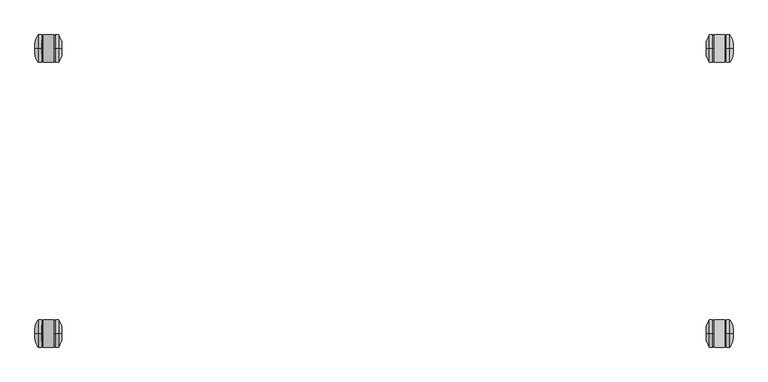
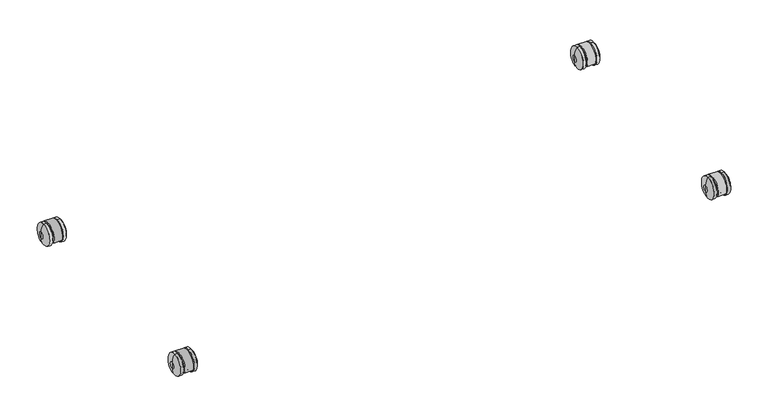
"""IFC4 building model written with IfcOpenShell, lengths in millimetres: furniture geometry, SmithSystem_AM_Table_Education_Elemental_NestAndFold_30D : 30D x 72W."""

from ifc_helpers import new_model, si_unit, point, frame, frame_2d, origin, place, context, project, spatial, polyline, circle_curve, ellipse_curve, trimmed, segment, composite_curve, outline, extrude, source, transform, mapped, element, save
from ifc_brep_helpers import plane_surface, cylinder_surface, revolved_surface, advanced_brep


def furniture_88b691dc(model_context):
    return source(origin(), model_context, "Body", "SolidModel", [
        extrude(outline(composite_curve([segment(polyline([(-686.7716582, 19.392668), (-749.5174044, 19.392668)]), True, "CONTINUOUS"), segment(trimmed(circle_curve(frame_2d((-718.1445313, 34.2990606)), 34.7341), [point((-749.5174044, 19.392668))], [point((-686.7716582, 19.392668))], False, "CARTESIAN"), True, "CONTINUOUS")], self_intersect=False)), frame((54.6490652, 0.0, 0.0), z_axis=(1.0, 0.0, 0.0), x_axis=(0.0, 1.0, 0.0)), (0.0, 0.0, 1.0), 26.0360428),
        extrude(outline(composite_curve([segment(polyline([(32.7611544, 19.392668), (-29.9845918, 19.392668)]), True, "CONTINUOUS"), segment(trimmed(circle_curve(frame_2d((1.3882813, 34.2990606)), 34.7341), [point((-29.9845918, 19.392668))], [point((32.7611544, 19.392668))], False, "CARTESIAN"), True, "CONTINUOUS")], self_intersect=False)), frame((54.6490652, 0.0, 0.0), z_axis=(1.0, 0.0, 0.0), x_axis=(0.0, 1.0, 0.0)), (0.0, 0.0, 1.0), 26.0360428),
        extrude(outline(composite_curve([segment(polyline([(-686.7716582, 19.392668), (-749.5174044, 19.392668)]), True, "CONTINUOUS"), segment(trimmed(circle_curve(frame_2d((-718.1445313, 34.2990606)), 34.7341), [point((-749.5174044, 19.392668))], [point((-686.7716582, 19.392668))], False, "CARTESIAN"), True, "CONTINUOUS")], self_intersect=False)), frame((1748.114892, 0.0, 0.0), z_axis=(1.0, 0.0, 0.0), x_axis=(0.0, 1.0, 0.0)), (0.0, 0.0, 1.0), 26.0360428),
        extrude(outline(composite_curve([segment(polyline([(32.7611544, 19.392668), (-29.9845918, 19.392668)]), True, "CONTINUOUS"), segment(trimmed(circle_curve(frame_2d((1.3882813, 34.2990606)), 34.7341), [point((-29.9845918, 19.392668))], [point((32.7611544, 19.392668))], False, "CARTESIAN"), True, "CONTINUOUS")], self_intersect=False)), frame((1748.114892, 0.0, 0.0), z_axis=(1.0, 0.0, 0.0), x_axis=(0.0, 1.0, 0.0)), (0.0, 0.0, 1.0), 26.0360428),
        advanced_brep(
        [(1746.5769566, 1.3882813, 34.3697295), (1746.5769566, 1.3882813, 66.3180847), (1746.5769566, 1.3882813, 2.4213744), (1744.4062544, 1.3882813, 69.0331606), (1744.4062544, 1.3882813, -0.2937015), (1735.4015712, 1.3882813, 69.0331606), (1735.4015712, 1.3882813, -0.2937015), (1727.4841685, 1.3882813, 45.9515492), (1727.4841685, 1.3882813, 22.7879099), (1727.4841685, 1.3882813, 34.3697295)],
        [
            (0, 1),
            (1, 2, circle_curve(frame((1746.5769566, 1.3882813, 34.3697295), z_axis=(1.0, 0.0, 0.0), x_axis=(0.0, 0.0, 1.0)), 31.9483552)),
            (2, 0),
            (2, 1, circle_curve(frame((1746.5769566, 1.3882813, 34.3697295), z_axis=(1.0, 0.0, 0.0), x_axis=(0.0, 0.0, 1.0)), 31.9483552)),
            (1, 3),
            (3, 4, circle_curve(frame((1744.4062544, 1.3882813, 34.3697295), z_axis=(1.0, 0.0, 0.0), x_axis=(0.0, 0.0, 1.0)), 34.6634311)),
            (4, 2),
            (4, 3, circle_curve(frame((1744.4062544, 1.3882813, 34.3697295), z_axis=(1.0, 0.0, 0.0), x_axis=(0.0, 0.0, 1.0)), 34.6634311)),
            (3, 5),
            (5, 6, circle_curve(frame((1735.4015712, 1.3882813, 34.3697295), z_axis=(1.0, 0.0, 0.0), x_axis=(0.0, 0.0, 1.0)), 34.6634311)),
            (6, 4),
            (6, 5, circle_curve(frame((1735.4015712, 1.3882813, 34.3697295), z_axis=(1.0, 0.0, 0.0), x_axis=(0.0, 0.0, 1.0)), 34.6634311)),
            (5, 7, circle_curve(frame((1765.0877916, 1.3882813, 45.9515492), z_axis=(0.0, -1.0, 0.0), x_axis=(1.0, 0.0, 0.0)), 37.6036231)),
            (7, 8, circle_curve(frame((1727.4841685, 1.3882813, 34.3697295), z_axis=(1.0, 0.0, 0.0), x_axis=(0.0, 0.0, 1.0)), 11.5818197)),
            (8, 6, circle_curve(frame((1765.0877916, 1.3882813, 22.7879099), z_axis=(0.0, -1.0, 0.0), x_axis=(1.0, 0.0, 0.0)), 37.6036231)),
            (8, 7, circle_curve(frame((1727.4841685, 1.3882813, 34.3697295), z_axis=(1.0, 0.0, 0.0), x_axis=(0.0, 0.0, 1.0)), 11.5818197)),
            (7, 9),
            (9, 8),
        ],
        [
            plane_surface(frame((1746.5769566, 1.3882813, 34.3697295), z_axis=(1.0, 0.0, 0.0), x_axis=(0.0, 0.0, 1.0))),
            revolved_surface(polyline([(1744.4062544, 1.3882813, 69.0331606), (1746.5769566, 1.3882813, 66.3180847)]), (1727.4841685, 1.3882813, 34.3697295), (1.0, 0.0, 0.0)),
            cylinder_surface(frame((1727.4841685, 1.3882813, 34.3697295), z_axis=(1.0, 0.0, 0.0), x_axis=(0.0, 0.0, 1.0)), 34.6634311),
            revolved_surface(trimmed(ellipse_curve(frame((1765.0877916, 1.3882813, 45.9515492), z_axis=(0.0, 1.0, 0.0), x_axis=(1.0, 0.0, 0.0)), 37.6036231, 37.6036231), [point((1727.4841685, 1.3882813, 45.9515492))], [point((1735.4015712, 1.3882813, 69.0331606))], True, "CARTESIAN"), (1727.4841685, 1.3882813, 34.3697295), (1.0, 0.0, 0.0)),
            plane_surface(frame((1727.4841685, 1.3882813, 34.3697295), z_axis=(-1.0, 0.0, 0.0), x_axis=(0.0, 0.0, 1.0))),
        ],
        [
            (0, [[1, 2, 3]]),
            (0, [[-3, 4, -1]]),
            (1, [[-2, 5, 6, 7]]),
            (1, [[-4, -7, 8, -5]]),
            (2, [[-6, 9, 10, 11]]),
            (2, [[-8, -11, 12, -9]]),
            (3, [[-10, 13, 14, 15]]),
            (3, [[-12, -15, 16, -13]]),
            (4, [[-14, 17, 18]]),
            (4, [[-16, -18, -17]]),
        ],
    ),
        advanced_brep(
        [(1795.2247373, 1.3882813, 34.3697295), (1795.2247373, 1.3882813, 45.9515492), (1795.2247373, 1.3882813, 22.7879099), (1787.3073346, 1.3882813, 69.0331606), (1787.3073346, 1.3882813, -0.2937015), (1778.3026514, 1.3882813, 69.0331606), (1778.3026514, 1.3882813, -0.2937015), (1776.1319492, 1.3882813, 66.3180847), (1776.1319492, 1.3882813, 2.4213744), (1776.1319492, 1.3882813, 34.3697295)],
        [
            (0, 1),
            (1, 2, circle_curve(frame((1795.2247373, 1.3882813, 34.3697295), z_axis=(1.0, 0.0, 0.0), x_axis=(0.0, 0.0, 1.0)), 11.5818197)),
            (2, 0),
            (2, 1, circle_curve(frame((1795.2247373, 1.3882813, 34.3697295), z_axis=(1.0, 0.0, 0.0), x_axis=(0.0, 0.0, 1.0)), 11.5818197)),
            (1, 3, circle_curve(frame((1757.6211142, 1.3882813, 45.9515492), z_axis=(0.0, -1.0, 0.0), x_axis=(1.0, 0.0, 0.0)), 37.6036231)),
            (3, 4, circle_curve(frame((1787.3073346, 1.3882813, 34.3697295), z_axis=(1.0, 0.0, 0.0), x_axis=(0.0, 0.0, 1.0)), 34.6634311)),
            (4, 2, circle_curve(frame((1757.6211142, 1.3882813, 22.7879099), z_axis=(0.0, -1.0, 0.0), x_axis=(1.0, 0.0, 0.0)), 37.6036231)),
            (4, 3, circle_curve(frame((1787.3073346, 1.3882813, 34.3697295), z_axis=(1.0, 0.0, 0.0), x_axis=(0.0, 0.0, 1.0)), 34.6634311)),
            (3, 5),
            (5, 6, circle_curve(frame((1778.3026514, 1.3882813, 34.3697295), z_axis=(1.0, 0.0, 0.0), x_axis=(0.0, 0.0, 1.0)), 34.6634311)),
            (6, 4),
            (6, 5, circle_curve(frame((1778.3026514, 1.3882813, 34.3697295), z_axis=(1.0, 0.0, 0.0), x_axis=(0.0, 0.0, 1.0)), 34.6634311)),
            (5, 7),
            (7, 8, circle_curve(frame((1776.1319492, 1.3882813, 34.3697295), z_axis=(1.0, 0.0, 0.0), x_axis=(0.0, 0.0, 1.0)), 31.9483552)),
            (8, 6),
            (8, 7, circle_curve(frame((1776.1319492, 1.3882813, 34.3697295), z_axis=(1.0, 0.0, 0.0), x_axis=(0.0, 0.0, 1.0)), 31.9483552)),
            (7, 9),
            (9, 8),
        ],
        [
            plane_surface(frame((1795.2247373, 1.3882813, 34.3697295), z_axis=(1.0, 0.0, 0.0), x_axis=(0.0, 0.0, 1.0))),
            revolved_surface(trimmed(ellipse_curve(frame((1757.6211142, 1.3882813, 45.9515492), z_axis=(0.0, 1.0, 0.0), x_axis=(1.0, 0.0, 0.0)), 37.6036231, 37.6036231), [point((1787.3073346, 1.3882813, 69.0331606))], [point((1795.2247373, 1.3882813, 45.9515492))], True, "CARTESIAN"), (1727.4841685, 1.3882813, 34.3697295), (1.0, 0.0, 0.0)),
            cylinder_surface(frame((1727.4841685, 1.3882813, 34.3697295), z_axis=(1.0, 0.0, 0.0), x_axis=(0.0, 0.0, 1.0)), 34.6634311),
            revolved_surface(polyline([(1776.1319492, 1.3882813, 66.3180847), (1778.3026514, 1.3882813, 69.0331606)]), (1727.4841685, 1.3882813, 34.3697295), (1.0, 0.0, 0.0)),
            plane_surface(frame((1776.1319492, 1.3882813, 34.3697295), z_axis=(-1.0, 0.0, 0.0), x_axis=(0.0, 0.0, 1.0))),
        ],
        [
            (0, [[1, 2, 3]]),
            (0, [[-3, 4, -1]]),
            (1, [[-2, 5, 6, 7]]),
            (1, [[-4, -7, 8, -5]]),
            (2, [[-6, 9, 10, 11]]),
            (2, [[-8, -11, 12, -9]]),
            (3, [[-10, 13, 14, 15]]),
            (3, [[-12, -15, 16, -13]]),
            (4, [[-14, 17, 18]]),
            (4, [[-16, -18, -17]]),
        ],
    ),
        advanced_brep(
        [(101.3158315, 1.3882813, 34.3697295), (101.3158315, 1.3882813, 45.9515492), (101.3158315, 1.3882813, 22.7879099), (93.3984288, 1.3882813, 69.0331606), (93.3984288, 1.3882813, -0.2937015), (84.3937456, 1.3882813, 69.0331606), (84.3937456, 1.3882813, -0.2937015), (82.2230434, 1.3882813, 66.3180847), (82.2230434, 1.3882813, 2.4213744), (82.2230434, 1.3882813, 34.3697295)],
        [
            (0, 1),
            (1, 2, circle_curve(frame((101.3158315, 1.3882813, 34.3697295), z_axis=(1.0, 0.0, 0.0), x_axis=(0.0, 0.0, 1.0)), 11.5818197)),
            (2, 0),
            (2, 1, circle_curve(frame((101.3158315, 1.3882813, 34.3697295), z_axis=(1.0, 0.0, 0.0), x_axis=(0.0, 0.0, 1.0)), 11.5818197)),
            (1, 3, circle_curve(frame((63.7122084, 1.3882813, 45.9515492), z_axis=(0.0, -1.0, 0.0), x_axis=(1.0, 0.0, 0.0)), 37.6036231)),
            (3, 4, circle_curve(frame((93.3984288, 1.3882813, 34.3697295), z_axis=(1.0, 0.0, 0.0), x_axis=(0.0, 0.0, 1.0)), 34.6634311)),
            (4, 2, circle_curve(frame((63.7122084, 1.3882813, 22.7879099), z_axis=(0.0, -1.0, 0.0), x_axis=(1.0, 0.0, 0.0)), 37.6036231)),
            (4, 3, circle_curve(frame((93.3984288, 1.3882813, 34.3697295), z_axis=(1.0, 0.0, 0.0), x_axis=(0.0, 0.0, 1.0)), 34.6634311)),
            (3, 5),
            (5, 6, circle_curve(frame((84.3937456, 1.3882813, 34.3697295), z_axis=(1.0, 0.0, 0.0), x_axis=(0.0, 0.0, 1.0)), 34.6634311)),
            (6, 4),
            (6, 5, circle_curve(frame((84.3937456, 1.3882813, 34.3697295), z_axis=(1.0, 0.0, 0.0), x_axis=(0.0, 0.0, 1.0)), 34.6634311)),
            (5, 7),
            (7, 8, circle_curve(frame((82.2230434, 1.3882813, 34.3697295), z_axis=(1.0, 0.0, 0.0), x_axis=(0.0, 0.0, 1.0)), 31.9483552)),
            (8, 6),
            (8, 7, circle_curve(frame((82.2230434, 1.3882813, 34.3697295), z_axis=(1.0, 0.0, 0.0), x_axis=(0.0, 0.0, 1.0)), 31.9483552)),
            (7, 9),
            (9, 8),
        ],
        [
            plane_surface(frame((101.3158315, 1.3882813, 34.3697295), z_axis=(1.0, 0.0, 0.0), x_axis=(0.0, 0.0, 1.0))),
            revolved_surface(trimmed(ellipse_curve(frame((63.7122084, 1.3882813, 45.9515492), z_axis=(0.0, 1.0, 0.0), x_axis=(1.0, 0.0, 0.0)), 37.6036231, 37.6036231), [point((93.3984288, 1.3882813, 69.0331606))], [point((101.3158315, 1.3882813, 45.9515492))], True, "CARTESIAN"), (1727.4841685, 1.3882813, 34.3697295), (1.0, 0.0, 0.0)),
            cylinder_surface(frame((1727.4841685, 1.3882813, 34.3697295), z_axis=(1.0, 0.0, 0.0), x_axis=(0.0, 0.0, 1.0)), 34.6634311),
            revolved_surface(polyline([(82.2230434, 1.3882813, 66.3180847), (84.3937456, 1.3882813, 69.0331606)]), (1727.4841685, 1.3882813, 34.3697295), (1.0, 0.0, 0.0)),
            plane_surface(frame((82.2230434, 1.3882813, 34.3697295), z_axis=(-1.0, 0.0, 0.0), x_axis=(0.0, 0.0, 1.0))),
        ],
        [
            (0, [[1, 2, 3]]),
            (0, [[-3, 4, -1]]),
            (1, [[-2, 5, 6, 7]]),
            (1, [[-4, -7, 8, -5]]),
            (2, [[-6, 9, 10, 11]]),
            (2, [[-8, -11, 12, -9]]),
            (3, [[-10, 13, 14, 15]]),
            (3, [[-12, -15, 16, -13]]),
            (4, [[-14, 17, 18]]),
            (4, [[-16, -18, -17]]),
        ],
    ),
        advanced_brep(
        [(52.6680508, 1.3882813, 34.3697295), (52.6680508, 1.3882813, 66.3180847), (52.6680508, 1.3882813, 2.4213744), (50.4973486, 1.3882813, 69.0331606), (50.4973486, 1.3882813, -0.2937015), (41.4926654, 1.3882813, 69.0331606), (41.4926654, 1.3882813, -0.2937015), (33.5752627, 1.3882813, 45.9515492), (33.5752627, 1.3882813, 22.7879099), (33.5752627, 1.3882813, 34.3697295)],
        [
            (0, 1),
            (1, 2, circle_curve(frame((52.6680508, 1.3882813, 34.3697295), z_axis=(1.0, 0.0, 0.0), x_axis=(0.0, 0.0, 1.0)), 31.9483552)),
            (2, 0),
            (2, 1, circle_curve(frame((52.6680508, 1.3882813, 34.3697295), z_axis=(1.0, 0.0, 0.0), x_axis=(0.0, 0.0, 1.0)), 31.9483552)),
            (1, 3),
            (3, 4, circle_curve(frame((50.4973486, 1.3882813, 34.3697295), z_axis=(1.0, 0.0, 0.0), x_axis=(0.0, 0.0, 1.0)), 34.6634311)),
            (4, 2),
            (4, 3, circle_curve(frame((50.4973486, 1.3882813, 34.3697295), z_axis=(1.0, 0.0, 0.0), x_axis=(0.0, 0.0, 1.0)), 34.6634311)),
            (3, 5),
            (5, 6, circle_curve(frame((41.4926654, 1.3882813, 34.3697295), z_axis=(1.0, 0.0, 0.0), x_axis=(0.0, 0.0, 1.0)), 34.6634311)),
            (6, 4),
            (6, 5, circle_curve(frame((41.4926654, 1.3882813, 34.3697295), z_axis=(1.0, 0.0, 0.0), x_axis=(0.0, 0.0, 1.0)), 34.6634311)),
            (5, 7, circle_curve(frame((71.1788858, 1.3882813, 45.9515492), z_axis=(0.0, -1.0, 0.0), x_axis=(1.0, 0.0, 0.0)), 37.6036231)),
            (7, 8, circle_curve(frame((33.5752627, 1.3882813, 34.3697295), z_axis=(1.0, 0.0, 0.0), x_axis=(0.0, 0.0, 1.0)), 11.5818197)),
            (8, 6, circle_curve(frame((71.1788858, 1.3882813, 22.7879099), z_axis=(0.0, -1.0, 0.0), x_axis=(1.0, 0.0, 0.0)), 37.6036231)),
            (8, 7, circle_curve(frame((33.5752627, 1.3882813, 34.3697295), z_axis=(1.0, 0.0, 0.0), x_axis=(0.0, 0.0, 1.0)), 11.5818197)),
            (7, 9),
            (9, 8),
        ],
        [
            plane_surface(frame((52.6680508, 1.3882813, 34.3697295), z_axis=(1.0, 0.0, 0.0), x_axis=(0.0, 0.0, 1.0))),
            revolved_surface(polyline([(50.4973486, 1.3882813, 69.0331606), (52.6680508, 1.3882813, 66.3180847)]), (1727.4841685, 1.3882813, 34.3697295), (1.0, 0.0, 0.0)),
            cylinder_surface(frame((1727.4841685, 1.3882813, 34.3697295), z_axis=(1.0, 0.0, 0.0), x_axis=(0.0, 0.0, 1.0)), 34.6634311),
            revolved_surface(trimmed(ellipse_curve(frame((71.1788858, 1.3882813, 45.9515492), z_axis=(0.0, 1.0, 0.0), x_axis=(1.0, 0.0, 0.0)), 37.6036231, 37.6036231), [point((33.5752627, 1.3882813, 45.9515492))], [point((41.4926654, 1.3882813, 69.0331606))], True, "CARTESIAN"), (1727.4841685, 1.3882813, 34.3697295), (1.0, 0.0, 0.0)),
            plane_surface(frame((33.5752627, 1.3882813, 34.3697295), z_axis=(-1.0, 0.0, 0.0), x_axis=(0.0, 0.0, 1.0))),
        ],
        [
            (0, [[1, 2, 3]]),
            (0, [[-3, 4, -1]]),
            (1, [[-2, 5, 6, 7]]),
            (1, [[-4, -7, 8, -5]]),
            (2, [[-6, 9, 10, 11]]),
            (2, [[-8, -11, 12, -9]]),
            (3, [[-10, 13, 14, 15]]),
            (3, [[-12, -15, 16, -13]]),
            (4, [[-14, 17, 18]]),
            (4, [[-16, -18, -17]]),
        ],
    ),
        advanced_brep(
        [(1746.5769566, -718.2151283, 2.4213744), (1746.5769566, -718.2151283, 66.3180847), (1746.5769566, -718.2151283, 34.3697295), (1744.4062544, -718.2151283, -0.2937015), (1744.4062544, -718.2151283, 69.0331606), (1735.4015712, -718.2151283, -0.2937015), (1735.4015712, -718.2151283, 69.0331606), (1727.4841685, -718.2151283, 22.7879099), (1727.4841685, -718.2151283, 45.9515492), (1727.4841685, -718.2151283, 34.3697295)],
        [
            (0, 1, circle_curve(frame((1746.5769566, -718.2151283, 34.3697295), z_axis=(1.0, 0.0, 0.0), x_axis=(0.0, 0.0, 1.0)), 31.9483552)),
            (1, 2),
            (2, 0),
            (1, 0, circle_curve(frame((1746.5769566, -718.2151283, 34.3697295), z_axis=(1.0, 0.0, 0.0), x_axis=(0.0, 0.0, 1.0)), 31.9483552)),
            (3, 4, circle_curve(frame((1744.4062544, -718.2151283, 34.3697295), z_axis=(1.0, 0.0, 0.0), x_axis=(0.0, 0.0, 1.0)), 34.6634311)),
            (4, 1),
            (0, 3),
            (4, 3, circle_curve(frame((1744.4062544, -718.2151283, 34.3697295), z_axis=(1.0, 0.0, 0.0), x_axis=(0.0, 0.0, 1.0)), 34.6634311)),
            (5, 6, circle_curve(frame((1735.4015712, -718.2151283, 34.3697295), z_axis=(1.0, 0.0, 0.0), x_axis=(0.0, 0.0, 1.0)), 34.6634311)),
            (6, 4),
            (3, 5),
            (6, 5, circle_curve(frame((1735.4015712, -718.2151283, 34.3697295), z_axis=(1.0, 0.0, 0.0), x_axis=(0.0, 0.0, 1.0)), 34.6634311)),
            (7, 8, circle_curve(frame((1727.4841685, -718.2151283, 34.3697295), z_axis=(1.0, 0.0, 0.0), x_axis=(0.0, 0.0, 1.0)), 11.5818197)),
            (8, 6, circle_curve(frame((1765.0877916, -718.2151283, 45.9515492), z_axis=(0.0, 1.0, 0.0), x_axis=(1.0, 0.0, 0.0)), 37.6036231)),
            (5, 7, circle_curve(frame((1765.0877916, -718.2151283, 22.7879099), z_axis=(0.0, 1.0, 0.0), x_axis=(1.0, 0.0, 0.0)), 37.6036231)),
            (8, 7, circle_curve(frame((1727.4841685, -718.2151283, 34.3697295), z_axis=(1.0, 0.0, 0.0), x_axis=(0.0, 0.0, 1.0)), 11.5818197)),
            (9, 8),
            (7, 9),
        ],
        [
            plane_surface(frame((1746.5769566, -718.2151283, 34.3697295), z_axis=(1.0, 0.0, 0.0), x_axis=(0.0, 0.0, 1.0))),
            revolved_surface(polyline([(1746.5769566, -718.2151283, 66.3180847), (1744.4062544, -718.2151283, 69.0331606)]), (1727.4841685, -718.2151283, 34.3697295), (-1.0, 0.0, 0.0)),
            cylinder_surface(frame((1727.4841685, -718.2151283, 34.3697295), z_axis=(-1.0, 0.0, 0.0), x_axis=(0.0, 0.0, 1.0)), 34.6634311),
            revolved_surface(trimmed(ellipse_curve(frame((1765.0877916, -718.2151283, 45.9515492), z_axis=(0.0, -1.0, 0.0), x_axis=(1.0, 0.0, 0.0)), 37.6036231, 37.6036231), [point((1735.4015712, -718.2151283, 69.0331606))], [point((1727.4841685, -718.2151283, 45.9515492))], True, "CARTESIAN"), (1727.4841685, -718.2151283, 34.3697295), (-1.0, 0.0, 0.0)),
            plane_surface(frame((1727.4841685, -718.2151283, 34.3697295), z_axis=(-1.0, 0.0, 0.0), x_axis=(0.0, 0.0, 1.0))),
        ],
        [
            (0, [[1, 2, 3]]),
            (0, [[4, -3, -2]]),
            (1, [[5, 6, -1, 7]]),
            (1, [[8, -7, -4, -6]]),
            (2, [[9, 10, -5, 11]]),
            (2, [[12, -11, -8, -10]]),
            (3, [[13, 14, -9, 15]]),
            (3, [[16, -15, -12, -14]]),
            (4, [[17, -13, 18]]),
            (4, [[-18, -16, -17]]),
        ],
    ),
        advanced_brep(
        [(1795.2247373, -718.2151283, 22.7879099), (1795.2247373, -718.2151283, 45.9515492), (1795.2247373, -718.2151283, 34.3697295), (1787.3073346, -718.2151283, -0.2937015), (1787.3073346, -718.2151283, 69.0331606), (1778.3026514, -718.2151283, -0.2937015), (1778.3026514, -718.2151283, 69.0331606), (1776.1319492, -718.2151283, 2.4213744), (1776.1319492, -718.2151283, 66.3180847), (1776.1319492, -718.2151283, 34.3697295)],
        [
            (0, 1, circle_curve(frame((1795.2247373, -718.2151283, 34.3697295), z_axis=(1.0, 0.0, 0.0), x_axis=(0.0, 0.0, 1.0)), 11.5818197)),
            (1, 2),
            (2, 0),
            (1, 0, circle_curve(frame((1795.2247373, -718.2151283, 34.3697295), z_axis=(1.0, 0.0, 0.0), x_axis=(0.0, 0.0, 1.0)), 11.5818197)),
            (3, 4, circle_curve(frame((1787.3073346, -718.2151283, 34.3697295), z_axis=(1.0, 0.0, 0.0), x_axis=(0.0, 0.0, 1.0)), 34.6634311)),
            (4, 1, circle_curve(frame((1757.6211142, -718.2151283, 45.9515492), z_axis=(0.0, 1.0, 0.0), x_axis=(1.0, 0.0, 0.0)), 37.6036231)),
            (0, 3, circle_curve(frame((1757.6211142, -718.2151283, 22.7879099), z_axis=(0.0, 1.0, 0.0), x_axis=(1.0, 0.0, 0.0)), 37.6036231)),
            (4, 3, circle_curve(frame((1787.3073346, -718.2151283, 34.3697295), z_axis=(1.0, 0.0, 0.0), x_axis=(0.0, 0.0, 1.0)), 34.6634311)),
            (5, 6, circle_curve(frame((1778.3026514, -718.2151283, 34.3697295), z_axis=(1.0, 0.0, 0.0), x_axis=(0.0, 0.0, 1.0)), 34.6634311)),
            (6, 4),
            (3, 5),
            (6, 5, circle_curve(frame((1778.3026514, -718.2151283, 34.3697295), z_axis=(1.0, 0.0, 0.0), x_axis=(0.0, 0.0, 1.0)), 34.6634311)),
            (7, 8, circle_curve(frame((1776.1319492, -718.2151283, 34.3697295), z_axis=(1.0, 0.0, 0.0), x_axis=(0.0, 0.0, 1.0)), 31.9483552)),
            (8, 6),
            (5, 7),
            (8, 7, circle_curve(frame((1776.1319492, -718.2151283, 34.3697295), z_axis=(1.0, 0.0, 0.0), x_axis=(0.0, 0.0, 1.0)), 31.9483552)),
            (9, 8),
            (7, 9),
        ],
        [
            plane_surface(frame((1795.2247373, -718.2151283, 34.3697295), z_axis=(1.0, 0.0, 0.0), x_axis=(0.0, 0.0, 1.0))),
            revolved_surface(trimmed(ellipse_curve(frame((1757.6211142, -718.2151283, 45.9515492), z_axis=(0.0, -1.0, 0.0), x_axis=(1.0, 0.0, 0.0)), 37.6036231, 37.6036231), [point((1795.2247373, -718.2151283, 45.9515492))], [point((1787.3073346, -718.2151283, 69.0331606))], True, "CARTESIAN"), (1727.4841685, -718.2151283, 34.3697295), (-1.0, 0.0, 0.0)),
            cylinder_surface(frame((1727.4841685, -718.2151283, 34.3697295), z_axis=(-1.0, 0.0, 0.0), x_axis=(0.0, 0.0, 1.0)), 34.6634311),
            revolved_surface(polyline([(1778.3026514, -718.2151283, 69.0331606), (1776.1319492, -718.2151283, 66.3180847)]), (1727.4841685, -718.2151283, 34.3697295), (-1.0, 0.0, 0.0)),
            plane_surface(frame((1776.1319492, -718.2151283, 34.3697295), z_axis=(-1.0, 0.0, 0.0), x_axis=(0.0, 0.0, 1.0))),
        ],
        [
            (0, [[1, 2, 3]]),
            (0, [[4, -3, -2]]),
            (1, [[5, 6, -1, 7]]),
            (1, [[8, -7, -4, -6]]),
            (2, [[9, 10, -5, 11]]),
            (2, [[12, -11, -8, -10]]),
            (3, [[13, 14, -9, 15]]),
            (3, [[16, -15, -12, -14]]),
            (4, [[17, -13, 18]]),
            (4, [[-18, -16, -17]]),
        ],
    ),
        advanced_brep(
        [(101.3158315, -718.2151283, 22.7879099), (101.3158315, -718.2151283, 45.9515492), (101.3158315, -718.2151283, 34.3697295), (93.3984288, -718.2151283, -0.2937015), (93.3984288, -718.2151283, 69.0331606), (84.3937456, -718.2151283, -0.2937015), (84.3937456, -718.2151283, 69.0331606), (82.2230434, -718.2151283, 2.4213744), (82.2230434, -718.2151283, 66.3180847), (82.2230434, -718.2151283, 34.3697295)],
        [
            (0, 1, circle_curve(frame((101.3158315, -718.2151283, 34.3697295), z_axis=(1.0, 0.0, 0.0), x_axis=(0.0, 0.0, 1.0)), 11.5818197)),
            (1, 2),
            (2, 0),
            (1, 0, circle_curve(frame((101.3158315, -718.2151283, 34.3697295), z_axis=(1.0, 0.0, 0.0), x_axis=(0.0, 0.0, 1.0)), 11.5818197)),
            (3, 4, circle_curve(frame((93.3984288, -718.2151283, 34.3697295), z_axis=(1.0, 0.0, 0.0), x_axis=(0.0, 0.0, 1.0)), 34.6634311)),
            (4, 1, circle_curve(frame((63.7122084, -718.2151283, 45.9515492), z_axis=(0.0, 1.0, 0.0), x_axis=(1.0, 0.0, 0.0)), 37.6036231)),
            (0, 3, circle_curve(frame((63.7122084, -718.2151283, 22.7879099), z_axis=(0.0, 1.0, 0.0), x_axis=(1.0, 0.0, 0.0)), 37.6036231)),
            (4, 3, circle_curve(frame((93.3984288, -718.2151283, 34.3697295), z_axis=(1.0, 0.0, 0.0), x_axis=(0.0, 0.0, 1.0)), 34.6634311)),
            (5, 6, circle_curve(frame((84.3937456, -718.2151283, 34.3697295), z_axis=(1.0, 0.0, 0.0), x_axis=(0.0, 0.0, 1.0)), 34.6634311)),
            (6, 4),
            (3, 5),
            (6, 5, circle_curve(frame((84.3937456, -718.2151283, 34.3697295), z_axis=(1.0, 0.0, 0.0), x_axis=(0.0, 0.0, 1.0)), 34.6634311)),
            (7, 8, circle_curve(frame((82.2230434, -718.2151283, 34.3697295), z_axis=(1.0, 0.0, 0.0), x_axis=(0.0, 0.0, 1.0)), 31.9483552)),
            (8, 6),
            (5, 7),
            (8, 7, circle_curve(frame((82.2230434, -718.2151283, 34.3697295), z_axis=(1.0, 0.0, 0.0), x_axis=(0.0, 0.0, 1.0)), 31.9483552)),
            (9, 8),
            (7, 9),
        ],
        [
            plane_surface(frame((101.3158315, -718.2151283, 34.3697295), z_axis=(1.0, 0.0, 0.0), x_axis=(0.0, 0.0, 1.0))),
            revolved_surface(trimmed(ellipse_curve(frame((63.7122084, -718.2151283, 45.9515492), z_axis=(0.0, -1.0, 0.0), x_axis=(1.0, 0.0, 0.0)), 37.6036231, 37.6036231), [point((101.3158315, -718.2151283, 45.9515492))], [point((93.3984288, -718.2151283, 69.0331606))], True, "CARTESIAN"), (1727.4841685, -718.2151283, 34.3697295), (-1.0, 0.0, 0.0)),
            cylinder_surface(frame((1727.4841685, -718.2151283, 34.3697295), z_axis=(-1.0, 0.0, 0.0), x_axis=(0.0, 0.0, 1.0)), 34.6634311),
            revolved_surface(polyline([(84.3937456, -718.2151283, 69.0331606), (82.2230434, -718.2151283, 66.3180847)]), (1727.4841685, -718.2151283, 34.3697295), (-1.0, 0.0, 0.0)),
            plane_surface(frame((82.2230434, -718.2151283, 34.3697295), z_axis=(-1.0, 0.0, 0.0), x_axis=(0.0, 0.0, 1.0))),
        ],
        [
            (0, [[1, 2, 3]]),
            (0, [[4, -3, -2]]),
            (1, [[5, 6, -1, 7]]),
            (1, [[8, -7, -4, -6]]),
            (2, [[9, 10, -5, 11]]),
            (2, [[12, -11, -8, -10]]),
            (3, [[13, 14, -9, 15]]),
            (3, [[16, -15, -12, -14]]),
            (4, [[17, -13, 18]]),
            (4, [[-18, -16, -17]]),
        ],
    ),
        advanced_brep(
        [(52.6680508, -718.2151283, 2.4213744), (52.6680508, -718.2151283, 66.3180847), (52.6680508, -718.2151283, 34.3697295), (50.4973486, -718.2151283, -0.2937015), (50.4973486, -718.2151283, 69.0331606), (41.4926654, -718.2151283, -0.2937015), (41.4926654, -718.2151283, 69.0331606), (33.5752627, -718.2151283, 22.7879099), (33.5752627, -718.2151283, 45.9515492), (33.5752627, -718.2151283, 34.3697295)],
        [
            (0, 1, circle_curve(frame((52.6680508, -718.2151283, 34.3697295), z_axis=(1.0, 0.0, 0.0), x_axis=(0.0, 0.0, 1.0)), 31.9483552)),
            (1, 2),
            (2, 0),
            (1, 0, circle_curve(frame((52.6680508, -718.2151283, 34.3697295), z_axis=(1.0, 0.0, 0.0), x_axis=(0.0, 0.0, 1.0)), 31.9483552)),
            (3, 4, circle_curve(frame((50.4973486, -718.2151283, 34.3697295), z_axis=(1.0, 0.0, 0.0), x_axis=(0.0, 0.0, 1.0)), 34.6634311)),
            (4, 1),
            (0, 3),
            (4, 3, circle_curve(frame((50.4973486, -718.2151283, 34.3697295), z_axis=(1.0, 0.0, 0.0), x_axis=(0.0, 0.0, 1.0)), 34.6634311)),
            (5, 6, circle_curve(frame((41.4926654, -718.2151283, 34.3697295), z_axis=(1.0, 0.0, 0.0), x_axis=(0.0, 0.0, 1.0)), 34.6634311)),
            (6, 4),
            (3, 5),
            (6, 5, circle_curve(frame((41.4926654, -718.2151283, 34.3697295), z_axis=(1.0, 0.0, 0.0), x_axis=(0.0, 0.0, 1.0)), 34.6634311)),
            (7, 8, circle_curve(frame((33.5752627, -718.2151283, 34.3697295), z_axis=(1.0, 0.0, 0.0), x_axis=(0.0, 0.0, 1.0)), 11.5818197)),
            (8, 6, circle_curve(frame((71.1788858, -718.2151283, 45.9515492), z_axis=(0.0, 1.0, 0.0), x_axis=(1.0, 0.0, 0.0)), 37.6036231)),
            (5, 7, circle_curve(frame((71.1788858, -718.2151283, 22.7879099), z_axis=(0.0, 1.0, 0.0), x_axis=(1.0, 0.0, 0.0)), 37.6036231)),
            (8, 7, circle_curve(frame((33.5752627, -718.2151283, 34.3697295), z_axis=(1.0, 0.0, 0.0), x_axis=(0.0, 0.0, 1.0)), 11.5818197)),
            (9, 8),
            (7, 9),
        ],
        [
            plane_surface(frame((52.6680508, -718.2151283, 34.3697295), z_axis=(1.0, 0.0, 0.0), x_axis=(0.0, 0.0, 1.0))),
            revolved_surface(polyline([(52.6680508, -718.2151283, 66.3180847), (50.4973486, -718.2151283, 69.0331606)]), (1727.4841685, -718.2151283, 34.3697295), (-1.0, 0.0, 0.0)),
            cylinder_surface(frame((1727.4841685, -718.2151283, 34.3697295), z_axis=(-1.0, 0.0, 0.0), x_axis=(0.0, 0.0, 1.0)), 34.6634311),
            revolved_surface(trimmed(ellipse_curve(frame((71.1788858, -718.2151283, 45.9515492), z_axis=(0.0, -1.0, 0.0), x_axis=(1.0, 0.0, 0.0)), 37.6036231, 37.6036231), [point((41.4926654, -718.2151283, 69.0331606))], [point((33.5752627, -718.2151283, 45.9515492))], True, "CARTESIAN"), (1727.4841685, -718.2151283, 34.3697295), (-1.0, 0.0, 0.0)),
            plane_surface(frame((33.5752627, -718.2151283, 34.3697295), z_axis=(-1.0, 0.0, 0.0), x_axis=(0.0, 0.0, 1.0))),
        ],
        [
            (0, [[1, 2, 3]]),
            (0, [[4, -3, -2]]),
            (1, [[5, 6, -1, 7]]),
            (1, [[8, -7, -4, -6]]),
            (2, [[9, 10, -5, 11]]),
            (2, [[12, -11, -8, -10]]),
            (3, [[13, 14, -9, 15]]),
            (3, [[16, -15, -12, -14]]),
            (4, [[17, -13, 18]]),
            (4, [[-18, -16, -17]]),
        ],
    ),
    ])


if __name__ == "__main__":
    model = new_model("IFC4")
    model_context = context("Model", 3, world=origin())
    ifc_project = project(units=[si_unit("LENGTHUNIT", "METRE", prefix="MILLI")], contexts=[model_context])
    site = spatial("IfcSite", under=ifc_project)
    building = spatial("IfcBuilding", under=site)
    placement = place(None, origin())
    furniture_shape = furniture_88b691dc(model_context)
    element("IfcFurniture", 1, ObjectType="SmithSystem_AM_Table_Education_Elemental_NestAndFold_30D : 30D x 72W", at=placement, inside=building, context=model_context, shape_type="MappedRepresentation", body=[
        mapped(furniture_shape, transform((0.0, 0.0, 0.0), x_axis=(1.0, 0.0, 0.0), y_axis=(0.0, 1.0, 0.0), z_axis=(0.0, 0.0, 1.0))),
    ])
    save(model, "model.ifc")
